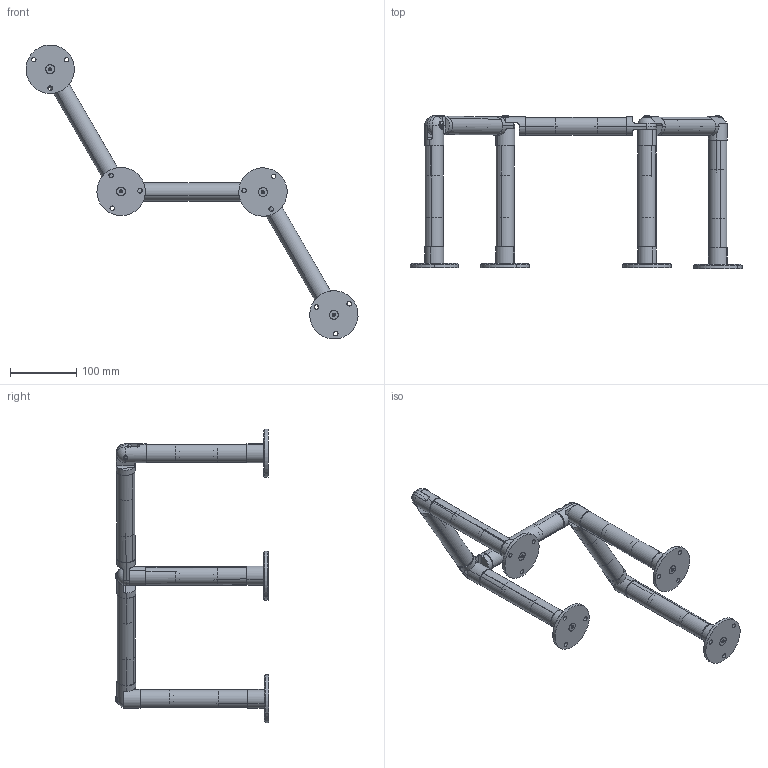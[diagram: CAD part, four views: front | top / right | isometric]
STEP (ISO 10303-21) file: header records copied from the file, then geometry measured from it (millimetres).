
FILE_DESCRIPTION (( 'STEP AP203' ), '1' );
FILE_NAME ('Fence - Front IP Top OP.STEP', '2013-06-07T20:09:08', ( 'Allred & Associates' ), ( 'Allred & Associates' ), 'SwSTEP 2.0', 'SolidWorks 2013', '' );
FILE_SCHEMA (( 'CONFIG_CONTROL_DESIGN' ));
Length unit declared in the file: inch
Products named in the file (1): Fence - Front IP Top OP
Bounding box: 501.27 x 231.03 x 443.89 mm (x, y, z)
Volume: 531159.6 mm3; surface area: 385094.9 mm2
Topology: 37 solids, 37 shells, 2039 faces, 4437 edges, 2494 vertices
Faces by surface type: cylinder 874, cone 804, plane 210, torus 84, bspline 48, sphere 19
Entity records: 76105 total; most frequent: CARTESIAN_POINT 33826, ORIENTED_EDGE 8846, DIRECTION 8554, EDGE_CURVE 4423, AXIS2_PLACEMENT_3D 3454, VERTEX_POINT 2494, EDGE_LOOP 2151, ADVANCED_FACE 2039
